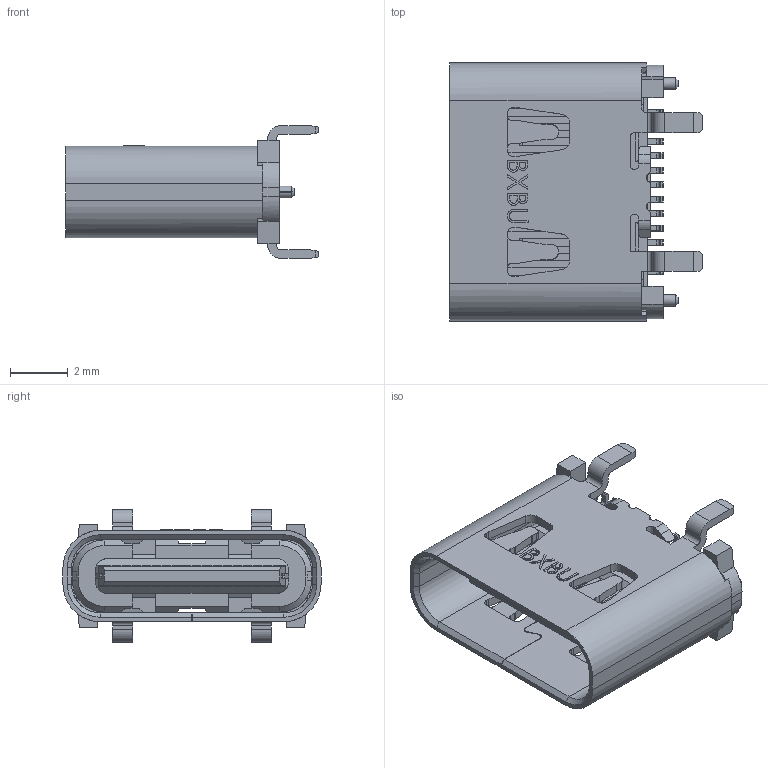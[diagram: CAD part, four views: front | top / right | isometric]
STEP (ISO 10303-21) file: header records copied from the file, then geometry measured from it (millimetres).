
FILE_DESCRIPTION (( 'STEP AP214' ), '1' );
FILE_NAME ('U5444-24PNT7.4L.STEP', '2026-07-23T09:00:26', ( '' ), ( '' ), 'SwSTEP 2.0', 'SolidWorks 2024', '' );
FILE_SCHEMA (( 'AUTOMOTIVE_DESIGN' ));
Length unit declared in the file: millimetre
Products named in the file (1): U5444-24PNT7.4L
Bounding box: 8.75 x 8.94 x 4.6 mm (x, y, z)
Volume: 86.5 mm3; surface area: 465.5 mm2
Topology: 1 solids, 1 shells, 989 faces, 2788 edges, 1819 vertices
Faces by surface type: plane 690, cylinder 250, bspline 29, cone 20
Entity records: 33753 total; most frequent: CARTESIAN_POINT 8217, ORIENTED_EDGE 5576, DIRECTION 4959, EDGE_CURVE 2788, VECTOR 2111, LINE 2111, VERTEX_POINT 1819, AXIS2_PLACEMENT_3D 1424
